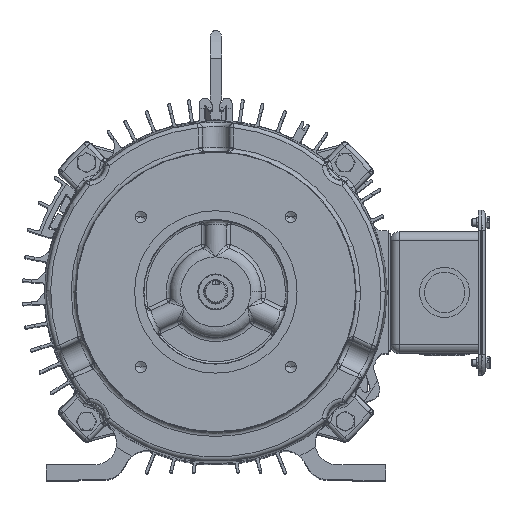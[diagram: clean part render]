
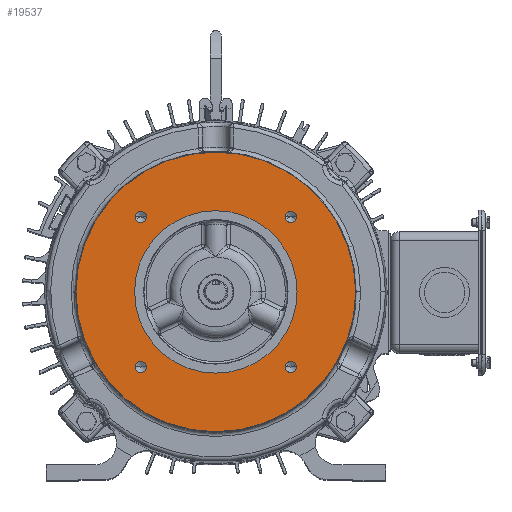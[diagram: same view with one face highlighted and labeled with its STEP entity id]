
A CAD part, top view. The second image highlights one B-rep face of the part: STEP entity #19537.
In plain terms, the highlighted planar face has unit normal (0, 0, 1).
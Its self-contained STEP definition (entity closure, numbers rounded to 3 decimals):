
#878 = EDGE_CURVE ( 'NONE', #132748, #34944, #116637, .T. ) ;
#4243 = CARTESIAN_POINT ( 'NONE',  ( 0., 0., 15.306 ) ) ;
#4269 = CIRCLE ( 'NONE', #105321, 3.871 ) ;
#4411 = EDGE_CURVE ( 'NONE', #83745, #12927, #4269, .T. ) ;
#4776 = DIRECTION ( 'NONE',  ( 1., 0., 0. ) ) ;
#4937 = DIRECTION ( 'NONE',  ( 0., 0., 1. ) ) ;
#5125 = EDGE_CURVE ( 'NONE', #14210, #124498, #22129, .T. ) ;
#5210 = CARTESIAN_POINT ( 'NONE',  ( -2.077, 2.077, 15.306 ) ) ;
#6661 = DIRECTION ( 'NONE',  ( 0., 0., 1. ) ) ;
#7522 = EDGE_CURVE ( 'NONE', #12927, #83745, #19898, .T. ) ;
#7911 = ORIENTED_EDGE ( 'NONE', *, *, #87820, .F. ) ;
#8182 = EDGE_CURVE ( 'NONE', #34944, #132748, #79028, .T. ) ;
#10295 = DIRECTION ( 'NONE',  ( 0., 0., 1. ) ) ;
#11800 = DIRECTION ( 'NONE',  ( 0., 0., 1. ) ) ;
#12263 = CARTESIAN_POINT ( 'NONE',  ( -2.233, -2.077, 15.306 ) ) ;
#12927 = VERTEX_POINT ( 'NONE', #113857 ) ;
#13184 = ORIENTED_EDGE ( 'NONE', *, *, #4411, .F. ) ;
#13838 = CARTESIAN_POINT ( 'NONE',  ( 0., 4.573, 15.306 ) ) ;
#13850 = DIRECTION ( 'NONE',  ( 0., 0., 1. ) ) ;
#14210 = VERTEX_POINT ( 'NONE', #39295 ) ;
#14257 = CARTESIAN_POINT ( 'NONE',  ( 1.921, 2.077, 15.306 ) ) ;
#15694 = FACE_BOUND ( 'NONE', #66890, .T. ) ;
#17313 = CARTESIAN_POINT ( 'NONE',  ( 2.077, 2.077, 15.306 ) ) ;
#19537 = ADVANCED_FACE ( 'NONE', ( #130638, #43677, #15694, #124113, #96290, #68372 ), #87420, .F. ) ;
#19898 = CIRCLE ( 'NONE', #52820, 3.871 ) ;
#21396 = CARTESIAN_POINT ( 'NONE',  ( -3.871, 0., 15.306 ) ) ;
#22129 = CIRCLE ( 'NONE', #55216, 2.249 ) ;
#26305 = ORIENTED_EDGE ( 'NONE', *, *, #133347, .F. ) ;
#27852 = DIRECTION ( 'NONE',  ( 1., 0., 0. ) ) ;
#29845 = DIRECTION ( 'NONE',  ( 0., 0., 1. ) ) ;
#32956 = ORIENTED_EDGE ( 'NONE', *, *, #5125, .F. ) ;
#34203 = CARTESIAN_POINT ( 'NONE',  ( -2.077, -2.077, 15.306 ) ) ;
#34640 = ORIENTED_EDGE ( 'NONE', *, *, #101133, .F. ) ;
#34944 = VERTEX_POINT ( 'NONE', #86890 ) ;
#37882 = AXIS2_PLACEMENT_3D ( 'NONE', #5210, #4937, #4776 ) ;
#39295 = CARTESIAN_POINT ( 'NONE',  ( -2.249, 0., 15.306 ) ) ;
#39536 = CARTESIAN_POINT ( 'NONE',  ( 2.233, -2.077, 15.306 ) ) ;
#41174 = EDGE_CURVE ( 'NONE', #113265, #122894, #120269, .T. ) ;
#43677 = FACE_BOUND ( 'NONE', #95108, .T. ) ;
#44055 = EDGE_LOOP ( 'NONE', ( #34640, #32956 ) ) ;
#44446 = AXIS2_PLACEMENT_3D ( 'NONE', #34203, #107714, #44805 ) ;
#44805 = DIRECTION ( 'NONE',  ( 1., 0., 0. ) ) ;
#45149 = CIRCLE ( 'NONE', #76524, 0.156 ) ;
#46108 = AXIS2_PLACEMENT_3D ( 'NONE', #69621, #6661, #80152 ) ;
#47909 = EDGE_CURVE ( 'NONE', #54516, #105334, #45149, .T. ) ;
#48401 = ORIENTED_EDGE ( 'NONE', *, *, #41174, .F. ) ;
#50809 = EDGE_LOOP ( 'NONE', ( #113896, #13184 ) ) ;
#52820 = AXIS2_PLACEMENT_3D ( 'NONE', #79871, #79737, #79602 ) ;
#53889 = AXIS2_PLACEMENT_3D ( 'NONE', #74826, #11800, #85342 ) ;
#54026 = EDGE_CURVE ( 'NONE', #135292, #121155, #121049, .T. ) ;
#54516 = VERTEX_POINT ( 'NONE', #99910 ) ;
#55216 = AXIS2_PLACEMENT_3D ( 'NONE', #104717, #104548, #104518 ) ;
#56230 = DIRECTION ( 'NONE',  ( 0., 0., -1. ) ) ;
#61931 = AXIS2_PLACEMENT_3D ( 'NONE', #87914, #87774, #87760 ) ;
#64779 = CARTESIAN_POINT ( 'NONE',  ( -1.921, 2.077, 15.306 ) ) ;
#66650 = ORIENTED_EDGE ( 'NONE', *, *, #126268, .F. ) ;
#66784 = AXIS2_PLACEMENT_3D ( 'NONE', #76884, #13850, #87431 ) ;
#66890 = EDGE_LOOP ( 'NONE', ( #48401, #66650 ) ) ;
#67685 = CARTESIAN_POINT ( 'NONE',  ( 2.233, 2.077, 15.306 ) ) ;
#68372 = FACE_OUTER_BOUND ( 'NONE', #50809, .T. ) ;
#69621 = CARTESIAN_POINT ( 'NONE',  ( 0., 0., 15.306 ) ) ;
#70288 = ORIENTED_EDGE ( 'NONE', *, *, #54026, .F. ) ;
#73320 = CARTESIAN_POINT ( 'NONE',  ( 2.077, -2.077, 15.306 ) ) ;
#74826 = CARTESIAN_POINT ( 'NONE',  ( 2.077, -2.077, 15.306 ) ) ;
#76524 = AXIS2_PLACEMENT_3D ( 'NONE', #73320, #10295, #83828 ) ;
#76884 = CARTESIAN_POINT ( 'NONE',  ( 2.077, 2.077, 15.306 ) ) ;
#76999 = ORIENTED_EDGE ( 'NONE', *, *, #47909, .F. ) ;
#77112 = AXIS2_PLACEMENT_3D ( 'NONE', #17313, #90887, #27852 ) ;
#79028 = CIRCLE ( 'NONE', #37882, 0.156 ) ;
#79231 = AXIS2_PLACEMENT_3D ( 'NONE', #13838, #56230, #129497 ) ;
#79602 = DIRECTION ( 'NONE',  ( -1., 0., 0. ) ) ;
#79737 = DIRECTION ( 'NONE',  ( 0., 0., -1. ) ) ;
#79871 = CARTESIAN_POINT ( 'NONE',  ( 0., 0., 15.306 ) ) ;
#80152 = DIRECTION ( 'NONE',  ( -1., 0., 0. ) ) ;
#83745 = VERTEX_POINT ( 'NONE', #21396 ) ;
#83828 = DIRECTION ( 'NONE',  ( 1., 0., 0. ) ) ;
#85342 = DIRECTION ( 'NONE',  ( 1., 0., 0. ) ) ;
#86488 = CIRCLE ( 'NONE', #66784, 0.156 ) ;
#86890 = CARTESIAN_POINT ( 'NONE',  ( -2.233, 2.077, 15.306 ) ) ;
#87420 = PLANE ( 'NONE',  #79231 ) ;
#87431 = DIRECTION ( 'NONE',  ( 1., 0., 0. ) ) ;
#87760 = DIRECTION ( 'NONE',  ( 1., 0., 0. ) ) ;
#87774 = DIRECTION ( 'NONE',  ( 0., 0., 1. ) ) ;
#87820 = EDGE_CURVE ( 'NONE', #105334, #54516, #94781, .T. ) ;
#87914 = CARTESIAN_POINT ( 'NONE',  ( -2.077, 2.077, 15.306 ) ) ;
#88307 = ORIENTED_EDGE ( 'NONE', *, *, #8182, .F. ) ;
#90887 = DIRECTION ( 'NONE',  ( 0., 0., 1. ) ) ;
#91592 = CIRCLE ( 'NONE', #46108, 2.249 ) ;
#92822 = CARTESIAN_POINT ( 'NONE',  ( -2.077, -2.077, 15.306 ) ) ;
#93893 = CARTESIAN_POINT ( 'NONE',  ( 2.249, 0., 15.306 ) ) ;
#94781 = CIRCLE ( 'NONE', #53889, 0.156 ) ;
#95108 = EDGE_LOOP ( 'NONE', ( #7911, #76999 ) ) ;
#96290 = FACE_BOUND ( 'NONE', #44055, .T. ) ;
#99910 = CARTESIAN_POINT ( 'NONE',  ( 1.921, -2.077, 15.306 ) ) ;
#101133 = EDGE_CURVE ( 'NONE', #124498, #14210, #91592, .T. ) ;
#103403 = DIRECTION ( 'NONE',  ( 1., 0., 0. ) ) ;
#104518 = DIRECTION ( 'NONE',  ( -1., 0., 0. ) ) ;
#104548 = DIRECTION ( 'NONE',  ( 0., 0., 1. ) ) ;
#104717 = CARTESIAN_POINT ( 'NONE',  ( 0., 0., 15.306 ) ) ;
#105321 = AXIS2_PLACEMENT_3D ( 'NONE', #4243, #136079, #135583 ) ;
#105334 = VERTEX_POINT ( 'NONE', #39536 ) ;
#106779 = CIRCLE ( 'NONE', #129426, 0.156 ) ;
#107714 = DIRECTION ( 'NONE',  ( 0., 0., 1. ) ) ;
#110239 = ORIENTED_EDGE ( 'NONE', *, *, #878, .F. ) ;
#113265 = VERTEX_POINT ( 'NONE', #135508 ) ;
#113857 = CARTESIAN_POINT ( 'NONE',  ( 3.871, 0., 15.306 ) ) ;
#113896 = ORIENTED_EDGE ( 'NONE', *, *, #7522, .F. ) ;
#116637 = CIRCLE ( 'NONE', #61931, 0.156 ) ;
#119623 = EDGE_LOOP ( 'NONE', ( #110239, #88307 ) ) ;
#120269 = CIRCLE ( 'NONE', #44446, 0.156 ) ;
#121049 = CIRCLE ( 'NONE', #77112, 0.156 ) ;
#121155 = VERTEX_POINT ( 'NONE', #67685 ) ;
#121173 = EDGE_LOOP ( 'NONE', ( #26305, #70288 ) ) ;
#122894 = VERTEX_POINT ( 'NONE', #12263 ) ;
#124113 = FACE_BOUND ( 'NONE', #119623, .T. ) ;
#124498 = VERTEX_POINT ( 'NONE', #93893 ) ;
#126268 = EDGE_CURVE ( 'NONE', #122894, #113265, #106779, .T. ) ;
#129426 = AXIS2_PLACEMENT_3D ( 'NONE', #92822, #29845, #103403 ) ;
#129497 = DIRECTION ( 'NONE',  ( -1., 0., 0. ) ) ;
#130638 = FACE_BOUND ( 'NONE', #121173, .T. ) ;
#132748 = VERTEX_POINT ( 'NONE', #64779 ) ;
#133347 = EDGE_CURVE ( 'NONE', #121155, #135292, #86488, .T. ) ;
#135292 = VERTEX_POINT ( 'NONE', #14257 ) ;
#135508 = CARTESIAN_POINT ( 'NONE',  ( -1.921, -2.077, 15.306 ) ) ;
#135583 = DIRECTION ( 'NONE',  ( -1., 0., 0. ) ) ;
#136079 = DIRECTION ( 'NONE',  ( 0., 0., -1. ) ) ;
